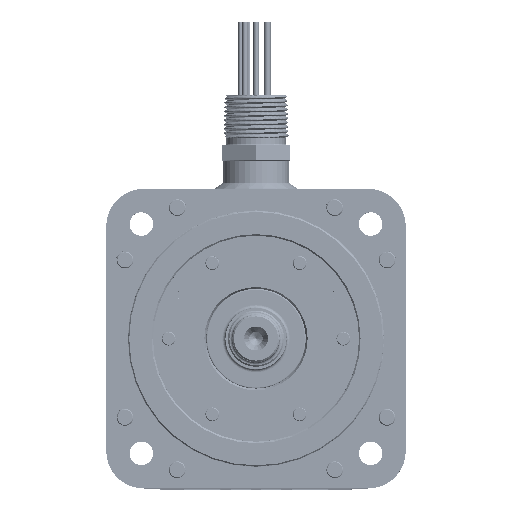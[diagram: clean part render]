
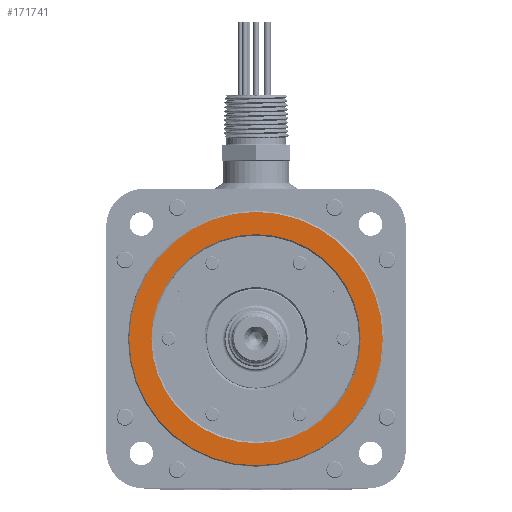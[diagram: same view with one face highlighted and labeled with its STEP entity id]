
A CAD part, top view. The second image highlights one B-rep face of the part: STEP entity #171741.
In plain terms, the highlighted planar face has unit normal (0, 0, 1).
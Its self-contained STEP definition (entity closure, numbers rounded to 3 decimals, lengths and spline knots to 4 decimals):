
#998 = DIRECTION ( 'NONE',  ( 0., 0., 1. ) ) ;
#19026 = VERTEX_POINT ( 'NONE', #192122 ) ;
#19133 = DIRECTION ( 'NONE',  ( 1., 0., 0. ) ) ;
#25817 = EDGE_CURVE ( 'NONE', #125327, #19026, #135179, .T. ) ;
#31279 = DIRECTION ( 'NONE',  ( 1., 0., 0. ) ) ;
#33519 = ORIENTED_EDGE ( 'NONE', *, *, #55829, .T. ) ;
#35752 = DIRECTION ( 'NONE',  ( 0., 0., -1. ) ) ;
#39583 = CARTESIAN_POINT ( 'NONE',  ( 2.0945, 0., 13.278 ) ) ;
#43397 = EDGE_CURVE ( 'NONE', #51336, #168709, #70777, .T. ) ;
#45465 = CARTESIAN_POINT ( 'NONE',  ( 0., 0., 13.278 ) ) ;
#51336 = VERTEX_POINT ( 'NONE', #176217 ) ;
#54513 = DIRECTION ( 'NONE',  ( 0., 0., 1. ) ) ;
#55829 = EDGE_CURVE ( 'NONE', #19026, #125327, #56347, .T. ) ;
#56347 = CIRCLE ( 'NONE', #187714, 2.0945 ) ;
#57922 = CARTESIAN_POINT ( 'NONE',  ( 0., 0., 13.278 ) ) ;
#70777 = CIRCLE ( 'NONE', #95782, 2.5391 ) ;
#71499 = FACE_BOUND ( 'NONE', #127436, .T. ) ;
#76493 = ORIENTED_EDGE ( 'NONE', *, *, #92164, .T. ) ;
#81993 = CARTESIAN_POINT ( 'NONE',  ( 0., 0., 13.278 ) ) ;
#90035 = PLANE ( 'NONE',  #145239 ) ;
#91447 = AXIS2_PLACEMENT_3D ( 'NONE', #169840, #35752, #19133 ) ;
#92164 = EDGE_CURVE ( 'NONE', #168709, #51336, #185511, .T. ) ;
#95782 = AXIS2_PLACEMENT_3D ( 'NONE', #57922, #178264, #177299 ) ;
#106111 = DIRECTION ( 'NONE',  ( 1., 0., 0. ) ) ;
#108054 = DIRECTION ( 'NONE',  ( 0., 0., -1. ) ) ;
#125327 = VERTEX_POINT ( 'NONE', #39583 ) ;
#127436 = EDGE_LOOP ( 'NONE', ( #136598, #33519 ) ) ;
#129508 = ORIENTED_EDGE ( 'NONE', *, *, #43397, .T. ) ;
#134078 = CARTESIAN_POINT ( 'NONE',  ( 0., 2.0645, 13.278 ) ) ;
#135179 = CIRCLE ( 'NONE', #91447, 2.0945 ) ;
#136598 = ORIENTED_EDGE ( 'NONE', *, *, #25817, .T. ) ;
#145239 = AXIS2_PLACEMENT_3D ( 'NONE', #134078, #998, #31279 ) ;
#152824 = EDGE_LOOP ( 'NONE', ( #129508, #76493 ) ) ;
#155990 = CARTESIAN_POINT ( 'NONE',  ( 2.5391, 0., 13.278 ) ) ;
#168709 = VERTEX_POINT ( 'NONE', #155990 ) ;
#169840 = CARTESIAN_POINT ( 'NONE',  ( 0., 0., 13.278 ) ) ;
#171741 = ADVANCED_FACE ( 'NONE', ( #180059, #71499 ), #90035, .T. ) ;
#176217 = CARTESIAN_POINT ( 'NONE',  ( -2.5391, 0., 13.278 ) ) ;
#177299 = DIRECTION ( 'NONE',  ( 1., 0., 0. ) ) ;
#178264 = DIRECTION ( 'NONE',  ( 0., 0., 1. ) ) ;
#180059 = FACE_OUTER_BOUND ( 'NONE', #152824, .T. ) ;
#182419 = AXIS2_PLACEMENT_3D ( 'NONE', #81993, #54513, #186674 ) ;
#185511 = CIRCLE ( 'NONE', #182419, 2.5391 ) ;
#186674 = DIRECTION ( 'NONE',  ( 1., 0., 0. ) ) ;
#187714 = AXIS2_PLACEMENT_3D ( 'NONE', #45465, #108054, #106111 ) ;
#192122 = CARTESIAN_POINT ( 'NONE',  ( -2.0945, 0., 13.278 ) ) ;
